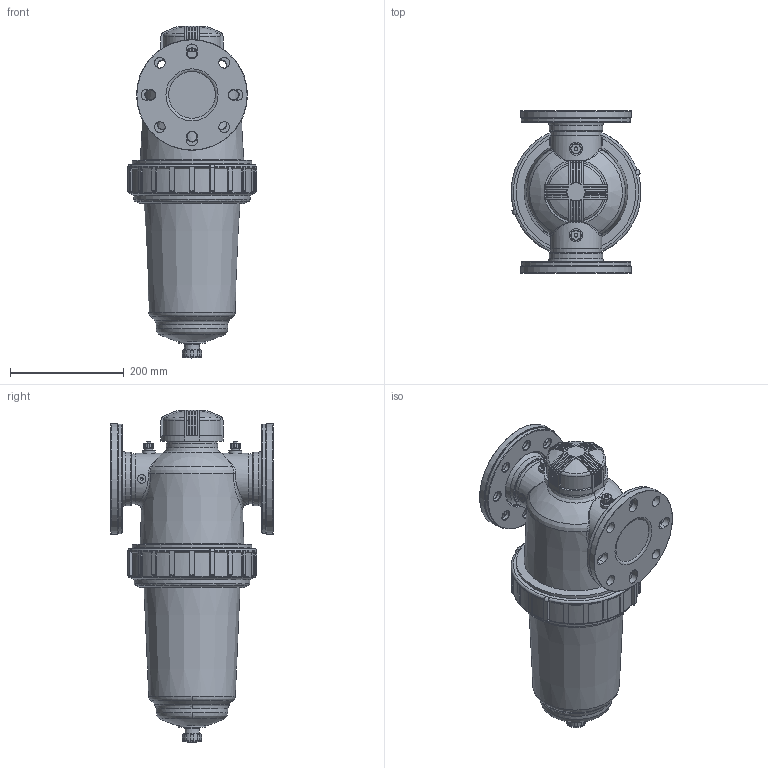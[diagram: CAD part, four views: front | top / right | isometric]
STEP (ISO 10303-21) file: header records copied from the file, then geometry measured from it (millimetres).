
FILE_DESCRIPTION( ( 'Unknown' ), '1' );
FILE_NAME( 'D:/SE/for Itzik/Asm6.stp', 'Unknown', ( 'Unknown' ), ( 'Unknown' ), 'XStep 1.0', 'Unknown', ' ' );
FILE_SCHEMA( ( 'CONFIG_CONTROL_DESIGN' ) );
Length unit declared in the file: millimetre
Products named in the file (2): Assem1; 1
Bounding box: 228 x 285 x 582.94 mm (x, y, z)
Volume: 26379615.2 mm3; surface area: 1087149 mm2
Topology: 2 solids, 6 shells, 1658 faces, 4462 edges, 2866 vertices
Faces by surface type: plane 676, cylinder 592, cone 120, torus 106, bspline 60, revolution 52, sphere 52
Full cylindrical faces by diameter (mm): 6.8 x4, 13.635 x4, 14.858 x4, 17.5 x32, 18 x4, 19 x16, 22.8 x4, 26.441 x2, 31.5 x2, 34.7 x2, 49.1 x2, 85.9 x4, 90 x6, 92 x4, 94 x4, 103 x4, 126 x2, 185.783 x2, 192 x4, 194.6 x4, 204 x2, 210 x2, 222.8 x2
Entity records: 32076 total; most frequent: CARTESIAN_POINT 12462, ORIENTED_EDGE 4034, DIRECTION 4003, EDGE_CURVE 2017, AXIS2_PLACEMENT_3D 1560, VERTEX_POINT 1354, EDGE_LOOP 1023, FACE_OUTER_BOUND 898
